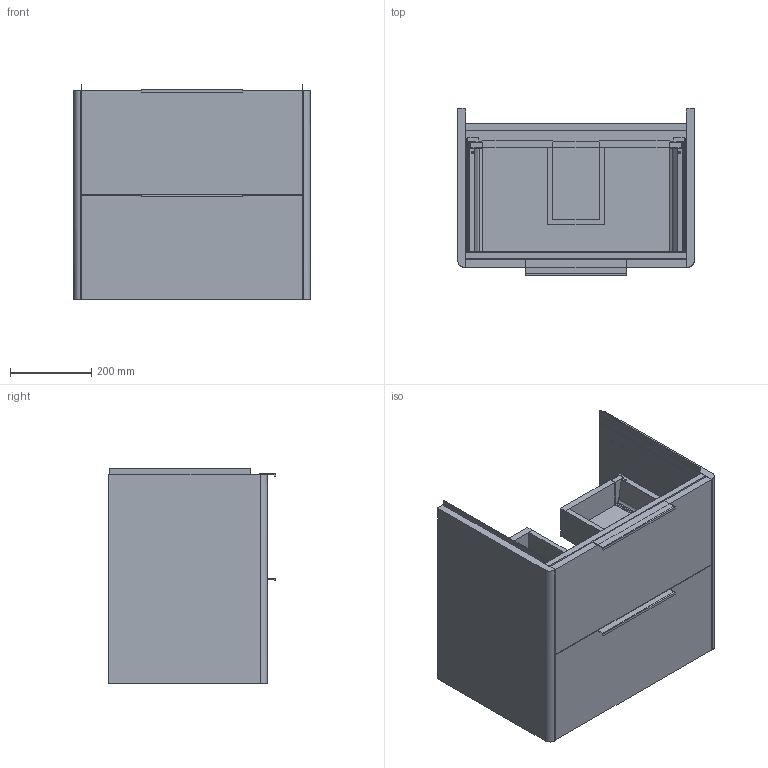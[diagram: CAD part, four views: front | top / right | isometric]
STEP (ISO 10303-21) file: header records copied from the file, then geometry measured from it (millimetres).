
FILE_DESCRIPTION(/* description */ (''),/* implementation_level */ '2;1');
FILE_NAME(/* name */ '3DAF08~1',/* time_stamp */ '2018-05-07T13:24:27+02:00',/* author */ (''),/* organization */ (''),/* preprocessor_version */ 'ST-DEVELOPER v15',/* originating_system */ '',/* authorisation */ '');
FILE_SCHEMA (('AUTOMOTIVE_DESIGN'));
Length unit declared in the file: millimetre
Products named in the file (23): Document; 300-84_MIR2; 300-84_1_MIR2; 300-84_2_MIR2; 300-84_3_MIR2; 300-84; 300-84_1; 300-84_2; 300-84_3; maniglia inferiore; Maniglia superiore; Frontale cassetto inferiore; Retro_cassetto inferiore; Fascia rialzo; Retro cassetto superiore; Fondo cassetto inferiore; Fondo cassetto superiore; Fondo mobile; Fianco dx; Fianco sx; Catena inferiore; Frontale cassetto superiore; Catena_superiore
Assembly tree (24 placements, depth 3):
  Document
    300-84_MIR2  x2
      300-84_1_MIR2
      300-84_2_MIR2
      300-84_3_MIR2
    300-84  x2
      300-84_1
      300-84_2
      300-84_3
    maniglia inferiore
    Maniglia superiore
    Frontale cassetto inferiore
    Retro_cassetto inferiore
    Fascia rialzo
    Retro cassetto superiore
    Fondo cassetto inferiore
    Fondo cassetto superiore
    Fondo mobile
    Fianco dx
    Fianco sx
    Catena inferiore
    Frontale cassetto superiore
    Catena_superiore
Bounding box: 582.5 x 411.1 x 529 mm (x, y, z)
Volume: 24542109.1 mm3; surface area: 3629542.6 mm2
Topology: 28 solids, 28 shells, 1051 faces, 3125 edges, 2166 vertices
Faces by surface type: plane 772, bspline 279
Entity records: 19782 total; most frequent: CARTESIAN_POINT 7907, ORIENTED_EDGE 3454, EDGE_CURVE 1727, B_SPLINE_CURVE_WITH_KNOTS 1283, VERTEX_POINT 1198, EDGE_LOOP 689, ADVANCED_FACE 595, FACE_OUTER_BOUND 595
